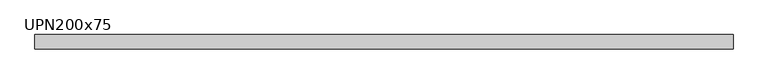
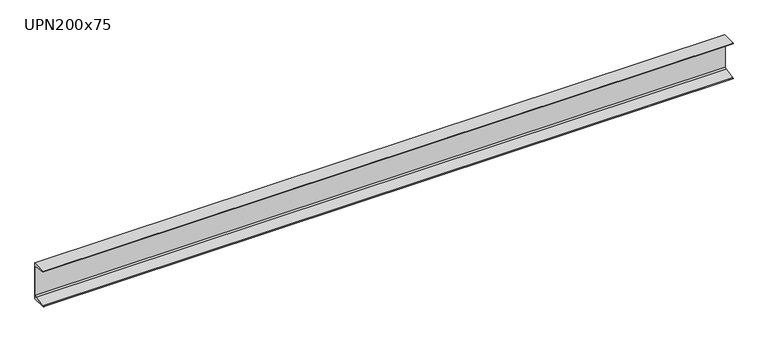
"""IFC4 building model written with IfcOpenShell, lengths in millimetres: beam geometry, M_MC Shapes : UPN200x75."""

from ifc_helpers import new_model, si_unit, point, frame, frame_2d, origin, place, context, project, spatial, polyline, circle_curve, trimmed, segment, composite_curve, outline, extrude, source, transform, mapped, element, save


def upn200x75_922ad74a(model_context):
    return source(origin(), model_context, "Body", "SweptSolid", [
        extrude(outline(composite_curve([segment(polyline([(10.9, 100.0), (10.9, -100.0), (-64.1, -100.0), (-64.1, -99.0253247)]), True, "CONTINUOUS"), segment(trimmed(circle_curve(frame_2d((-60.15, -99.0253247)), 3.95), [point((-64.1, -99.0253247))], [point((-60.7993773, -95.1290689))], False, "CARTESIAN"), True, "CONTINUOUS"), segment(polyline([(-60.7993773, -95.1290689), (-0.2512455, -85.0376935)]), True, "CONTINUOUS"), segment(trimmed(circle_curve(frame_2d((-1.55, -77.2451819)), 7.9), [point((-0.2512455, -85.0376935))], [point((6.35, -77.2451819))], True, "CARTESIAN"), True, "CONTINUOUS"), segment(polyline([(6.35, -77.2451819), (6.35, 77.2451819)]), True, "CONTINUOUS"), segment(trimmed(circle_curve(frame_2d((-1.55, 77.2451819)), 7.9), [point((6.35, 77.2451819))], [point((-0.2512455, 85.0376935))], True, "CARTESIAN"), True, "CONTINUOUS"), segment(polyline([(-0.2512455, 85.0376935), (-60.7993773, 95.1290689)]), True, "CONTINUOUS"), segment(trimmed(circle_curve(frame_2d((-60.15, 99.0253247)), 3.95), [point((-60.7993773, 95.1290689))], [point((-64.1, 99.0253247))], False, "CARTESIAN"), True, "CONTINUOUS"), segment(polyline([(-64.1, 99.0253247), (-64.1, 100.0), (10.9, 100.0)]), True, "CONTINUOUS")], self_intersect=False)), frame((-1816.85, 0.0, 0.0), z_axis=(1.0, 0.0, 0.0), x_axis=(0.0, 1.0, 0.0)), (0.0, 0.0, 1.0), 3633.7),
    ])


if __name__ == "__main__":
    model = new_model("IFC4")
    model_context = context("Model", 3, world=origin())
    ifc_project = project(units=[si_unit("LENGTHUNIT", "METRE", prefix="MILLI")], contexts=[model_context])
    site = spatial("IfcSite", under=ifc_project)
    building = spatial("IfcBuilding", under=site)
    placement = place(None, origin())
    upn200x75_shape = upn200x75_922ad74a(model_context)
    element("IfcBeam", 1, ObjectType="M_MC Shapes : UPN200x75", at=placement, inside=building, context=model_context, shape_type="MappedRepresentation", body=[
        mapped(upn200x75_shape, transform((0.0, 0.0, 0.0), x_axis=(1.0, 0.0, 0.0), y_axis=(0.0, 1.0, 0.0), z_axis=(0.0, 0.0, 1.0))),
    ])
    save(model, "model.ifc")
